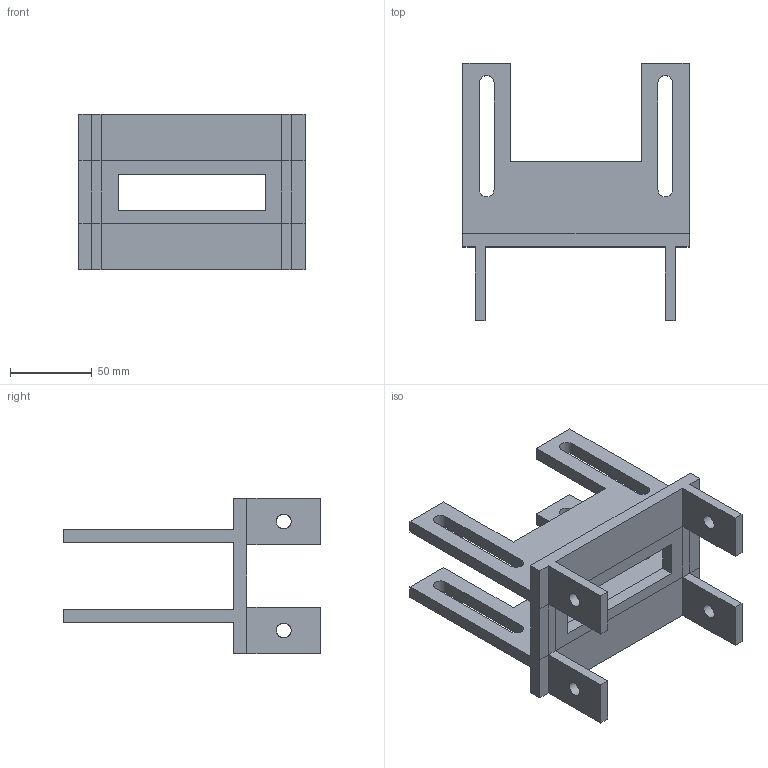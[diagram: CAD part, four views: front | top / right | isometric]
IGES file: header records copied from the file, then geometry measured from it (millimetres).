
Global section: file name: Filename.iges; native system: Open CASCADE 6.8; preprocessor: Open CASCADE IGES processor 6.8; date: 20160721.135858; units: millimetre
Bounding box: 138 x 157 x 95 mm (x, y, z)
Surface area: 83701.5 mm2 (no closed solid volume)
Topology: 0 solids, 0 shells, 72 faces, 388 edges, 380 vertices
Faces by surface type: plane 60, revolution 12
